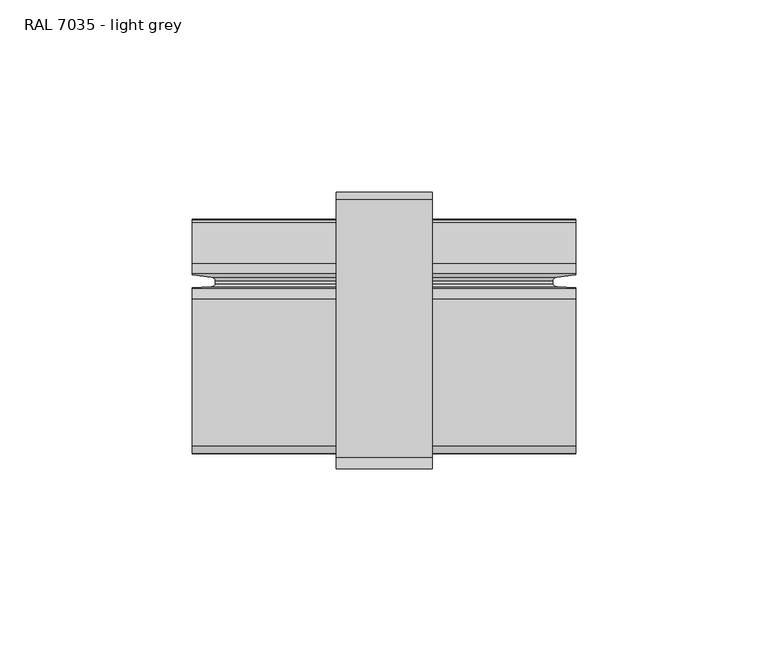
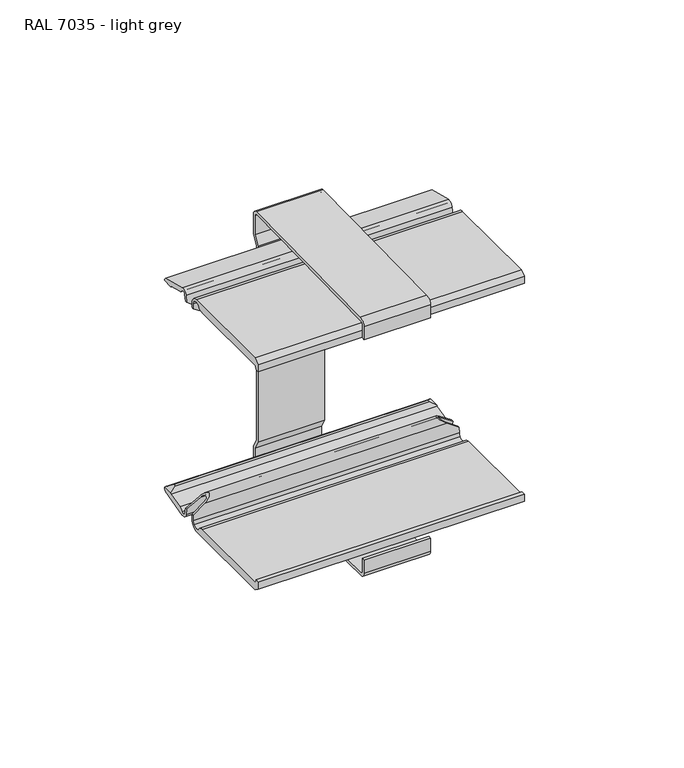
"""IFC4 building model written with IfcOpenShell, lengths in millimetres: cable carrier fitting geometry, Electrical_Installations_Hager_BRP-Cover-Joint-And-Coupling-Set-One-Compartment : RAL 7035 - light grey."""

from ifc_helpers import new_model, si_unit, point, frame, frame_2d, origin, place, context, project, spatial, polyline, circle_curve, ellipse_curve, trimmed, segment, composite_curve, outline, extrude, source, transform, mapped, element, save
from ifc_brep_helpers import plane_surface, cylinder_surface, revolved_surface, advanced_brep


def ral_7035_light_grey_244a7b3c(model_context):
    return source(origin(), model_context, "Body", "SolidModel", [
        advanced_brep(
        [(62.4539331, 9.9349646, -46.0), (62.4539331, 12.8937369, -43.1922299), (62.4539331, 13.0071302, -41.0285563), (62.4539331, 12.2060324, -41.0285563), (62.4539331, 12.0972278, -43.1046719), (62.4539331, 11.5722919, -44.3374822), (62.4539331, 8.6154068, -44.3374822), (62.4539331, 6.2408586, -43.0), (62.4539331, -28.4602638, -43.0), (62.4539331, -28.6935202, -41.8), (62.4539331, -30.1909579, -41.8), (62.4539331, -30.1909579, -44.5922147), (62.4539331, -28.1804322, -46.0), (62.4539331, 17.5959093, -43.5220563), (62.4539331, 17.156238, -41.0285563), (62.4539331, 16.3438967, -41.0285563), (62.4539331, 16.7875988, -43.5449161), (62.4539331, 19.2813243, -45.1597234), (62.4539331, 29.987087, -42.4606875), (62.4539331, 30.6071146, -41.6025774), (62.4539331, 30.713567, -41.0285563), (62.4539331, 26.7038341, -41.0285563), (62.4539331, 26.5295278, -41.269794), (62.4539331, 20.75928, -42.7245344), (62.4539331, 19.3924465, -43.8388343), (-37.4991238, 9.9349646, -46.0), (-37.4991238, -28.1804322, -46.0), (-37.4991238, -30.1909579, -44.5922147), (-37.4991238, -30.1909579, -41.8), (-37.4991238, -28.6935202, -41.8), (-37.4991238, -28.4602638, -43.0), (-37.4991238, 6.2408586, -43.0), (-37.4991238, 8.6154068, -44.3374822), (-37.4991238, 11.5722919, -44.3374822), (-37.4991238, 12.0972278, -43.1046719), (-37.4991238, 12.2043745, -41.0601898), (-37.4991238, 13.0054724, -41.0601898), (-37.4991238, 12.8937369, -43.1922299), (-37.4991238, 16.7875988, -43.5449161), (-37.4991238, 16.3494745, -41.0601898), (-37.4991238, 17.1618158, -41.0601898), (-37.4991238, 17.5959093, -43.5220563), (-37.4991238, 19.3924465, -43.8388343), (-37.4991238, 20.75928, -42.7245344), (-37.4991238, 26.5295278, -41.269794), (-37.4991238, 26.6809773, -41.0601898), (-37.4991238, 30.7211446, -41.0601898), (-37.4991238, 30.6071146, -41.6025774), (-37.4991238, 29.987087, -42.4606875), (-37.4991238, 19.2813243, -45.1597234), (57.9778928, 12.3702379, -37.8953281), (-32.9778928, 12.3702379, -37.8953281), (57.6312864, 16.5609841, -37.6527036), (-32.6312864, 16.5609841, -37.6527036), (60.3582956, 27.7637764, -39.5616101), (-35.3582956, 27.7637764, -39.5616101), (60.1356976, 28.7311779, -39.4057914), (-35.1356976, 28.7311779, -39.4057914), (61.9137661, 30.4537544, -40.6504394), (-36.9137661, 30.4537544, -40.6504394), (57.5108131, 15.7337729, -37.5683724), (-32.5108131, 15.7337729, -37.5683724), (56.4131383, 14.8180624, -36.8), (-31.4131383, 14.8180624, -36.8), (56.4131383, 14.0248885, -36.8), (-31.4131383, 14.0248885, -36.8), (57.5489353, 13.1870723, -37.5950579), (-32.5489353, 13.1870723, -37.5950579)],
        [
            (0, 1, circle_curve(frame((62.4539331, 9.9349646, -43.0371673), z_axis=(1.0, 0.0, 0.0), x_axis=(0.0, 1.0, 0.0)), 2.9628327)),
            (1, 2),
            (2, 3),
            (3, 4),
            (4, 5, circle_curve(frame((62.4539331, 10.1471153, -43.0024709), z_axis=(-1.0, 0.0, 0.0), x_axis=(0.0, 1.0, 0.0)), 1.9527887)),
            (5, 6, circle_curve(frame((62.4539331, 10.0938494, -43.0511502), z_axis=(-1.0, 0.0, 0.0), x_axis=(0.0, 1.0, 0.0)), 1.9597046)),
            (6, 7, circle_curve(frame((62.4539331, 6.1704137, -45.9016788), z_axis=(1.0, 0.0, 0.0), x_axis=(0.0, 1.0, 0.0)), 2.9025338)),
            (7, 8),
            (8, 9),
            (9, 10),
            (10, 11),
            (11, 12),
            (12, 0),
            (13, 14),
            (14, 15),
            (15, 16),
            (16, 17, circle_curve(frame((62.4539331, 18.7854041, -43.1926491), z_axis=(1.0, 0.0, 0.0), x_axis=(0.0, 1.0, 0.0)), 2.0286246)),
            (17, 18),
            (18, 19),
            (19, 20, circle_curve(frame((62.4539331, 30.0543655, -41.2031885), z_axis=(1.0, 0.0, 0.0), x_axis=(0.0, 1.0, 0.0)), 0.6819406)),
            (20, 21),
            (21, 22),
            (22, 23),
            (23, 24, circle_curve(frame((62.4539331, 21.9440803, -45.5732952), z_axis=(1.0, 0.0, 0.0), x_axis=(0.0, 1.0, 0.0)), 3.0853184)),
            (24, 13, circle_curve(frame((62.4539331, 18.5653797, -43.2766396), z_axis=(-1.0, 0.0, 0.0), x_axis=(0.0, 1.0, 0.0)), 1.0000511)),
            (25, 26),
            (26, 27),
            (27, 28),
            (28, 29),
            (29, 30),
            (30, 31),
            (31, 32, circle_curve(frame((-37.4991238, 6.1704137, -45.9016788), z_axis=(-1.0, 0.0, 0.0), x_axis=(0.0, 1.0, 0.0)), 2.9025338)),
            (32, 33, circle_curve(frame((-37.4991238, 10.0938494, -43.0511502), z_axis=(1.0, 0.0, 0.0), x_axis=(0.0, 1.0, 0.0)), 1.9597046)),
            (33, 34, circle_curve(frame((-37.4991238, 10.1471153, -43.0024709), z_axis=(1.0, 0.0, 0.0), x_axis=(0.0, 1.0, 0.0)), 1.9527887)),
            (34, 35),
            (35, 36),
            (36, 37),
            (37, 25, circle_curve(frame((-37.4991238, 9.9349646, -43.0371673), z_axis=(-1.0, 0.0, 0.0), x_axis=(0.0, 1.0, 0.0)), 2.9628327)),
            (38, 39),
            (39, 40),
            (40, 41),
            (41, 42, circle_curve(frame((-37.4991238, 18.5653797, -43.2766396), z_axis=(1.0, 0.0, 0.0), x_axis=(0.0, 1.0, 0.0)), 1.0000511)),
            (42, 43, circle_curve(frame((-37.4991238, 21.9440803, -45.5732952), z_axis=(-1.0, 0.0, 0.0), x_axis=(0.0, 1.0, 0.0)), 3.0853184)),
            (43, 44),
            (44, 45),
            (45, 46),
            (46, 47, circle_curve(frame((-37.4991238, 30.0543655, -41.2031885), z_axis=(-1.0, 0.0, 0.0), x_axis=(0.0, 1.0, 0.0)), 0.6819406)),
            (47, 48),
            (48, 49),
            (49, 38, circle_curve(frame((-37.4991238, 18.7854041, -43.1926491), z_axis=(-1.0, 0.0, 0.0), x_axis=(0.0, 1.0, 0.0)), 2.0286246)),
            (12, 26),
            (25, 0),
            (11, 27),
            (10, 28),
            (9, 29),
            (8, 30),
            (7, 31),
            (6, 32),
            (5, 33),
            (4, 34),
            (3, 50),
            (50, 51),
            (51, 35),
            (50, 52, ellipse_curve(frame((58.1555194, 14.479833, -38.0196667), z_axis=(-0.5734623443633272, 0.0, -0.8192319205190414), x_axis=(0.8192319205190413, 0.0, -0.5734623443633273)), 3.6850827, 2.1132562)),
            (52, 53),
            (53, 51, ellipse_curve(frame((-33.1555194, 14.479833, -38.0196667), z_axis=(0.5734623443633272, 0.0, -0.8192319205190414), x_axis=(0.8192319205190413, 0.0, 0.5734623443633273)), 3.6850827, 2.1132562)),
            (40, 53),
            (52, 14),
            (13, 41),
            (24, 42),
            (23, 43),
            (22, 44),
            (21, 54),
            (54, 55),
            (55, 45),
            (54, 56, ellipse_curve(frame((60.9379976, 28.3253864, -39.9674015), z_axis=(-0.5734623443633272, 0.0, -0.8192319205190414), x_axis=(0.8192319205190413, 0.0, -0.5734623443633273)), 1.208227, 0.6928727)),
            (56, 57),
            (57, 55, ellipse_curve(frame((-35.9379976, 28.3253864, -39.9674015), z_axis=(0.5734623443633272, 0.0, -0.8192319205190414), x_axis=(0.8192319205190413, 0.0, 0.5734623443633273)), 1.208227, 0.6928727)),
            (56, 58),
            (58, 59),
            (59, 57),
            (46, 59, ellipse_curve(frame((-37.7034076, 30.0543655, -41.2031885), z_axis=(0.5734623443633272, 0.0, -0.8192319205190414), x_axis=(0.8192319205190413, 0.0, 0.5734623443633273)), 1.1891637, 0.6819406)),
            (58, 20, ellipse_curve(frame((62.7034076, 30.0543655, -41.2031885), z_axis=(-0.5734623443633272, 0.0, -0.8192319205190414), x_axis=(0.8192319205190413, 0.0, -0.5734623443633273)), 1.1891637, 0.6819406)),
            (19, 47),
            (18, 48),
            (17, 49),
            (16, 38),
            (15, 60),
            (60, 61),
            (61, 39),
            (60, 62, ellipse_curve(frame((57.7414767, 14.8180624, -37.7298368), z_axis=(0.5734623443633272, 0.0, 0.8192319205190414), x_axis=(-0.8192319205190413, 0.0, 0.5734623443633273)), 1.6214436, 0.9298368)),
            (62, 63),
            (63, 61, ellipse_curve(frame((-32.7414767, 14.8180624, -37.7298368), z_axis=(-0.5734623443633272, 0.0, 0.8192319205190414), x_axis=(-0.8192319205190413, 0.0, -0.5734623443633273)), 1.6214436, 0.9298368)),
            (62, 64),
            (64, 65),
            (65, 63),
            (64, 66, ellipse_curve(frame((57.6116611, 14.0248885, -37.638966), z_axis=(0.5734623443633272, 0.0, 0.8192319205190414), x_axis=(-0.8192319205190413, 0.0, 0.5734623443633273)), 1.4629835, 0.838966)),
            (66, 67),
            (67, 65, ellipse_curve(frame((-32.6116611, 14.0248885, -37.638966), z_axis=(-0.5734623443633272, 0.0, 0.8192319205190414), x_axis=(-0.8192319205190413, 0.0, -0.5734623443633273)), 1.4629835, 0.838966)),
            (36, 67),
            (66, 2),
            (1, 37),
        ],
        [
            plane_surface(frame((62.4539331, -28.1804322, -46.0), z_axis=(1.0, 0.0, 0.0), x_axis=(0.0, -1.0, 0.0))),
            plane_surface(frame((-37.4991238, -28.1804322, -46.0), z_axis=(-1.0, 0.0, 0.0), x_axis=(0.0, 1.0, 0.0))),
            plane_surface(frame((62.4539331, 9.9349646, -46.0), z_axis=(0.0, 0.0, -1.0), x_axis=(-1.0, 0.0, 0.0))),
            plane_surface(frame((62.4539331, -28.1804322, -46.0), z_axis=(0.0, -0.5735764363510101, -0.8191520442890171), x_axis=(-1.0, 0.0, 0.0))),
            plane_surface(frame((62.4539331, -30.1909579, -44.5922147), z_axis=(0.0, -1.0, 0.0), x_axis=(-1.0, 0.0, 0.0))),
            plane_surface(frame((62.4539331, -30.1909579, -41.8), z_axis=(0.0, 0.0, 1.0), x_axis=(-1.0, 0.0, 0.0))),
            plane_surface(frame((62.4539331, -28.6935202, -41.8), z_axis=(0.0, 0.9816271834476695, 0.19080899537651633), x_axis=(-1.0, 0.0, 0.0))),
            plane_surface(frame((62.4539331, -28.4602638, -43.0), z_axis=(0.0, 0.0, 1.0), x_axis=(-1.0, 0.0, 0.0))),
            cylinder_surface(frame((-37.4991238, 6.1704137, -45.9016788), z_axis=(1.0, 0.0, 0.0), x_axis=(0.0, 1.0, 0.0)), 2.9025338),
            revolved_surface(polyline([(-37.4991238, 12.053554, -43.0511502), (62.45393310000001, 12.053554, -43.0511502)]), (-37.4991238, 10.0938494, -43.0511502), (-1.0, 0.0, 0.0)),
            revolved_surface(polyline([(-37.4991238, 12.099903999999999, -43.0024709), (62.45393310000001, 12.099903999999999, -43.0024709)]), (-37.4991238, 10.1471153, -43.0024709), (-1.0, 0.0, 0.0)),
            plane_surface(frame((62.4539331, 12.0972278, -43.1046719), z_axis=(0.0, -0.9986295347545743, 0.05233595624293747), x_axis=(-1.0, 0.0, 0.0))),
            cylinder_surface(frame((-37.4991238, 14.479833, -38.0196667), z_axis=(1.0, 0.0, 0.0), x_axis=(0.0, 1.0, 0.0)), 2.1132562),
            plane_surface(frame((62.4539331, 16.5609841, -37.6527036), z_axis=(0.0, 0.9848077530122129, 0.17364817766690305), x_axis=(-1.0, 0.0, 0.0))),
            revolved_surface(polyline([(-37.4991238, 19.5654308, -43.2766396), (62.45393310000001, 19.5654308, -43.2766396)]), (-37.4991238, 18.5653797, -43.2766396), (-1.0, 0.0, 0.0)),
            cylinder_surface(frame((-37.4991238, 21.9440803, -45.5732952), z_axis=(1.0, 0.0, 0.0), x_axis=(0.0, 1.0, 0.0)), 3.0853184),
            plane_surface(frame((62.4539331, 20.75928, -42.7245344), z_axis=(0.0, -0.2444612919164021, 0.9696590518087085), x_axis=(-1.0, 0.0, 0.0))),
            plane_surface(frame((62.4539331, 26.5295278, -41.269794), z_axis=(0.0, -0.8105530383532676, 0.585665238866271), x_axis=(-1.0, 0.0, 0.0))),
            cylinder_surface(frame((-37.4991238, 28.3253864, -39.9674015), z_axis=(1.0, 0.0, 0.0), x_axis=(0.0, 1.0, 0.0)), 0.6928727),
            plane_surface(frame((62.4539331, 28.7311779, -39.4057914), z_axis=(0.0, 0.5856652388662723, 0.8105530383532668), x_axis=(-1.0, 0.0, 0.0))),
            cylinder_surface(frame((-37.4991238, 30.0543655, -41.2031885), z_axis=(1.0, 0.0, 0.0), x_axis=(0.0, 1.0, 0.0)), 0.6819406),
            plane_surface(frame((62.4539331, 30.6071146, -41.6025774), z_axis=(0.0, 0.8105530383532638, -0.5856652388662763), x_axis=(-1.0, 0.0, 0.0))),
            plane_surface(frame((62.4539331, 29.987087, -42.4606875), z_axis=(0.0, 0.2444612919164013, -0.9696590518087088), x_axis=(-1.0, 0.0, 0.0))),
            cylinder_surface(frame((-37.4991238, 18.7854041, -43.1926491), z_axis=(1.0, 0.0, 0.0), x_axis=(0.0, 1.0, 0.0)), 2.0286246),
            plane_surface(frame((62.4539331, 16.7875988, -43.5449161), z_axis=(0.0, -0.9848077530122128, -0.1736481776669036), x_axis=(-1.0, 0.0, 0.0))),
            revolved_surface(polyline([(-34.06981505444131, 15.7478992, -37.7298368), (59.069815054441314, 15.7478992, -37.7298368)]), (-37.4991238, 14.8180624, -37.7298368), (-1.0, 0.0, 0.0)),
            plane_surface(frame((62.4539331, 14.8180624, -36.8), z_axis=(0.0, 0.0, -1.0), x_axis=(-1.0, 0.0, 0.0))),
            revolved_surface(polyline([(-33.810183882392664, 14.863854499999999, -37.638966), (58.81018388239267, 14.863854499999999, -37.638966)]), (-37.4991238, 14.0248885, -37.638966), (-1.0, 0.0, 0.0)),
            plane_surface(frame((62.4539331, 13.1870723, -37.5950579), z_axis=(0.0, 0.9986295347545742, -0.05233595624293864), x_axis=(-1.0, 0.0, 0.0))),
            cylinder_surface(frame((-37.4991238, 9.9349646, -43.0371673), z_axis=(1.0, 0.0, 0.0), x_axis=(0.0, 1.0, 0.0)), 2.9628327),
            plane_surface(frame((-29.049591, -36.0, -35.1455169), z_axis=(-0.5734623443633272, 0.0, 0.8192319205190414), x_axis=(0.0, 1.0, 0.0))),
            plane_surface(frame((63.0724089, -36.0, -41.4614894), z_axis=(0.5734623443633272, 0.0, 0.8192319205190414), x_axis=(0.0, 1.0, 0.0))),
        ],
        [
            (0, [[1, 2, 3, 4, 5, 6, 7, 8, 9, 10, 11, 12, 13]]),
            (0, [[14, 15, 16, 17, 18, 19, 20, 21, 22, 23, 24, 25]]),
            (1, [[26, 27, 28, 29, 30, 31, 32, 33, 34, 35, 36, 37, 38]]),
            (1, [[39, 40, 41, 42, 43, 44, 45, 46, 47, 48, 49, 50]]),
            (2, [[51, -26, 52, -13]]),
            (3, [[53, -27, -51, -12]]),
            (4, [[54, -28, -53, -11]]),
            (5, [[55, -29, -54, -10]]),
            (6, [[56, -30, -55, -9]]),
            (7, [[57, -31, -56, -8]]),
            (8, [[58, -32, -57, -7]]),
            (9, [[59, -33, -58, -6]]),
            (10, [[60, -34, -59, -5]]),
            (11, [[-4, 61, 62, 63, -35, -60]]),
            (12, [[-62, 64, 65, 66]]),
            (13, [[-41, 67, -65, 68, -14, 69]]),
            (14, [[70, -42, -69, -25]]),
            (15, [[71, -43, -70, -24]]),
            (16, [[72, -44, -71, -23]]),
            (17, [[-22, 73, 74, 75, -45, -72]]),
            (18, [[-74, 76, 77, 78]]),
            (19, [[-77, 79, 80, 81]]),
            (20, [[-47, 82, -80, 83, -20, 84]]),
            (21, [[85, -48, -84, -19]]),
            (22, [[86, -49, -85, -18]]),
            (23, [[87, -50, -86, -17]]),
            (24, [[-16, 88, 89, 90, -39, -87]]),
            (25, [[-89, 91, 92, 93]]),
            (26, [[-92, 94, 95, 96]]),
            (27, [[-95, 97, 98, 99]]),
            (28, [[-37, 100, -98, 101, -2, 102]]),
            (29, [[-52, -38, -102, -1]]),
            (30, [[-63, -66, -67, -40, -90, -93, -96, -99, -100, -36]]),
            (30, [[-75, -78, -81, -82, -46]]),
            (31, [[-83, -79, -76, -73, -21]]),
            (31, [[-101, -97, -94, -91, -88, -15, -68, -64, -61, -3]]),
        ],
    ),
        advanced_brep(
        [(62.4539331, 9.9349646, 46.0), (62.4539331, -28.1804322, 46.0), (62.4539331, -30.1909579, 44.5922147), (62.4539331, -30.1909579, 41.8), (62.4539331, -28.6935202, 41.8), (62.4539331, -28.4602638, 43.0), (62.4539331, 6.2408586, 43.0), (62.4539331, 8.6154068, 44.3374822), (62.4539331, 11.5722919, 44.3374822), (62.4539331, 12.0972278, 43.1046719), (62.4539331, 12.2060324, 41.0285563), (62.4539331, 13.0071302, 41.0285563), (62.4539331, 12.8937369, 43.1922299), (62.4539331, 17.5959093, 43.5220563), (62.4539331, 19.3924465, 43.8388343), (62.4539331, 20.75928, 42.7245344), (62.4539331, 26.5295278, 41.269794), (62.4539331, 26.7038341, 41.0285563), (62.4539331, 30.713567, 41.0285563), (62.4539331, 30.6071146, 41.6025774), (62.4539331, 29.987087, 42.4606875), (62.4539331, 19.2813243, 45.1597234), (62.4539331, 16.7875988, 43.5449161), (62.4539331, 16.3438967, 41.0285563), (62.4539331, 17.156238, 41.0285563), (-37.4991238, 9.9349646, 46.0), (-37.4991238, 12.8937369, 43.1922299), (-37.4991238, 13.0054724, 41.0601898), (-37.4991238, 12.2043745, 41.0601898), (-37.4991238, 12.0972278, 43.1046719), (-37.4991238, 11.5722919, 44.3374822), (-37.4991238, 8.6154068, 44.3374822), (-37.4991238, 6.2408586, 43.0), (-37.4991238, -28.4602638, 43.0), (-37.4991238, -28.6935202, 41.8), (-37.4991238, -30.1909579, 41.8), (-37.4991238, -30.1909579, 44.5922147), (-37.4991238, -28.1804322, 46.0), (-37.4991238, 16.7875988, 43.5449161), (-37.4991238, 19.2813243, 45.1597234), (-37.4991238, 29.987087, 42.4606875), (-37.4991238, 30.6071146, 41.6025774), (-37.4991238, 30.7211446, 41.0601898), (-37.4991238, 26.6809773, 41.0601898), (-37.4991238, 26.5295278, 41.269794), (-37.4991238, 20.75928, 42.7245344), (-37.4991238, 19.3924465, 43.8388343), (-37.4991238, 17.5959093, 43.5220563), (-37.4991238, 17.1618158, 41.0601898), (-37.4991238, 16.3494745, 41.0601898), (-32.9778928, 12.3702379, 37.8953281), (57.9778928, 12.3702379, 37.8953281), (-32.6312864, 16.5609841, 37.6527036), (57.6312864, 16.5609841, 37.6527036), (-35.3582956, 27.7637764, 39.5616101), (60.3582956, 27.7637764, 39.5616101), (-35.1356976, 28.7311779, 39.4057914), (60.1356976, 28.7311779, 39.4057914), (-36.9137661, 30.4537544, 40.6504394), (61.9137661, 30.4537544, 40.6504394), (-32.5108131, 15.7337729, 37.5683724), (57.5108131, 15.7337729, 37.5683724), (-31.4131383, 14.8180624, 36.8), (56.4131383, 14.8180624, 36.8), (-31.4131383, 14.0248885, 36.8), (56.4131383, 14.0248885, 36.8), (-32.5489353, 13.1870723, 37.5950579), (57.5489353, 13.1870723, 37.5950579)],
        [
            (0, 1),
            (1, 2),
            (2, 3),
            (3, 4),
            (4, 5),
            (5, 6),
            (6, 7, circle_curve(frame((62.4539331, 6.1704137, 45.9016788), z_axis=(1.0, 0.0, 0.0), x_axis=(0.0, 1.0, 0.0)), 2.9025338)),
            (7, 8, circle_curve(frame((62.4539331, 10.0938494, 43.0511502), z_axis=(-1.0, 0.0, 0.0), x_axis=(0.0, 1.0, 0.0)), 1.9597046)),
            (8, 9, circle_curve(frame((62.4539331, 10.1471153, 43.0024709), z_axis=(-1.0, 0.0, 0.0), x_axis=(0.0, 1.0, 0.0)), 1.9527887)),
            (9, 10),
            (10, 11),
            (11, 12),
            (12, 0, circle_curve(frame((62.4539331, 9.9349646, 43.0371673), z_axis=(1.0, 0.0, 0.0), x_axis=(0.0, 1.0, 0.0)), 2.9628327)),
            (13, 14, circle_curve(frame((62.4539331, 18.5653797, 43.2766396), z_axis=(-1.0, 0.0, 0.0), x_axis=(0.0, 1.0, 0.0)), 1.0000511)),
            (14, 15, circle_curve(frame((62.4539331, 21.9440803, 45.5732952), z_axis=(1.0, 0.0, 0.0), x_axis=(0.0, 1.0, 0.0)), 3.0853184)),
            (15, 16),
            (16, 17),
            (17, 18),
            (18, 19, circle_curve(frame((62.4539331, 30.0543655, 41.2031885), z_axis=(1.0, 0.0, 0.0), x_axis=(0.0, 1.0, 0.0)), 0.6819406)),
            (19, 20),
            (20, 21),
            (21, 22, circle_curve(frame((62.4539331, 18.7854041, 43.1926491), z_axis=(1.0, 0.0, 0.0), x_axis=(0.0, 1.0, 0.0)), 2.0286246)),
            (22, 23),
            (23, 24),
            (24, 13),
            (25, 26, circle_curve(frame((-37.4991238, 9.9349646, 43.0371673), z_axis=(-1.0, 0.0, 0.0), x_axis=(0.0, 1.0, 0.0)), 2.9628327)),
            (26, 27),
            (27, 28),
            (28, 29),
            (29, 30, circle_curve(frame((-37.4991238, 10.1471153, 43.0024709), z_axis=(1.0, 0.0, 0.0), x_axis=(0.0, 1.0, 0.0)), 1.9527887)),
            (30, 31, circle_curve(frame((-37.4991238, 10.0938494, 43.0511502), z_axis=(1.0, 0.0, 0.0), x_axis=(0.0, 1.0, 0.0)), 1.9597046)),
            (31, 32, circle_curve(frame((-37.4991238, 6.1704137, 45.9016788), z_axis=(-1.0, 0.0, 0.0), x_axis=(0.0, 1.0, 0.0)), 2.9025338)),
            (32, 33),
            (33, 34),
            (34, 35),
            (35, 36),
            (36, 37),
            (37, 25),
            (38, 39, circle_curve(frame((-37.4991238, 18.7854041, 43.1926491), z_axis=(-1.0, 0.0, 0.0), x_axis=(0.0, 1.0, 0.0)), 2.0286246)),
            (39, 40),
            (40, 41),
            (41, 42, circle_curve(frame((-37.4991238, 30.0543655, 41.2031885), z_axis=(-1.0, 0.0, 0.0), x_axis=(0.0, 1.0, 0.0)), 0.6819406)),
            (42, 43),
            (43, 44),
            (44, 45),
            (45, 46, circle_curve(frame((-37.4991238, 21.9440803, 45.5732952), z_axis=(-1.0, 0.0, 0.0), x_axis=(0.0, 1.0, 0.0)), 3.0853184)),
            (46, 47, circle_curve(frame((-37.4991238, 18.5653797, 43.2766396), z_axis=(1.0, 0.0, 0.0), x_axis=(0.0, 1.0, 0.0)), 1.0000511)),
            (47, 48),
            (48, 49),
            (49, 38),
            (0, 25),
            (37, 1),
            (36, 2),
            (35, 3),
            (34, 4),
            (33, 5),
            (32, 6),
            (31, 7),
            (30, 8),
            (29, 9),
            (28, 50),
            (50, 51),
            (51, 10),
            (50, 52, ellipse_curve(frame((-33.1555194, 14.479833, 38.0196667), z_axis=(0.5734623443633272, 0.0, 0.8192319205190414), x_axis=(0.8192319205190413, 0.0, -0.5734623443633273)), 3.6850827, 2.1132562)),
            (52, 53),
            (53, 51, ellipse_curve(frame((58.1555194, 14.479833, 38.0196667), z_axis=(-0.5734623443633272, 0.0, 0.8192319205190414), x_axis=(0.8192319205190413, 0.0, 0.5734623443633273)), 3.6850827, 2.1132562)),
            (47, 13),
            (24, 53),
            (52, 48),
            (46, 14),
            (45, 15),
            (44, 16),
            (43, 54),
            (54, 55),
            (55, 17),
            (54, 56, ellipse_curve(frame((-35.9379976, 28.3253864, 39.9674015), z_axis=(0.5734623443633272, 0.0, 0.8192319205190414), x_axis=(0.8192319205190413, 0.0, -0.5734623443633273)), 1.208227, 0.6928727)),
            (56, 57),
            (57, 55, ellipse_curve(frame((60.9379976, 28.3253864, 39.9674015), z_axis=(-0.5734623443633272, 0.0, 0.8192319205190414), x_axis=(0.8192319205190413, 0.0, 0.5734623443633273)), 1.208227, 0.6928727)),
            (56, 58),
            (58, 59),
            (59, 57),
            (41, 19),
            (18, 59, ellipse_curve(frame((62.7034076, 30.0543655, 41.2031885), z_axis=(-0.5734623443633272, 0.0, 0.8192319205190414), x_axis=(0.8192319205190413, 0.0, 0.5734623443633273)), 1.1891637, 0.6819406)),
            (58, 42, ellipse_curve(frame((-37.7034076, 30.0543655, 41.2031885), z_axis=(0.5734623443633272, 0.0, 0.8192319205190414), x_axis=(0.8192319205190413, 0.0, -0.5734623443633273)), 1.1891637, 0.6819406)),
            (40, 20),
            (39, 21),
            (38, 22),
            (49, 60),
            (60, 61),
            (61, 23),
            (60, 62, ellipse_curve(frame((-32.7414767, 14.8180624, 37.7298368), z_axis=(-0.5734623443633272, 0.0, -0.8192319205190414), x_axis=(-0.8192319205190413, 0.0, 0.5734623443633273)), 1.6214436, 0.9298368)),
            (62, 63),
            (63, 61, ellipse_curve(frame((57.7414767, 14.8180624, 37.7298368), z_axis=(0.5734623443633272, 0.0, -0.8192319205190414), x_axis=(-0.8192319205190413, 0.0, -0.5734623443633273)), 1.6214436, 0.9298368)),
            (62, 64),
            (64, 65),
            (65, 63),
            (64, 66, ellipse_curve(frame((-32.6116611, 14.0248885, 37.638966), z_axis=(-0.5734623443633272, 0.0, -0.8192319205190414), x_axis=(-0.8192319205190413, 0.0, 0.5734623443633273)), 1.4629835, 0.838966)),
            (66, 67),
            (67, 65, ellipse_curve(frame((57.6116611, 14.0248885, 37.638966), z_axis=(0.5734623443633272, 0.0, -0.8192319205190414), x_axis=(-0.8192319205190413, 0.0, -0.5734623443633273)), 1.4629835, 0.838966)),
            (26, 12),
            (11, 67),
            (66, 27),
        ],
        [
            plane_surface(frame((62.4539331, -28.1804322, 46.0), z_axis=(1.0, 0.0, 0.0), x_axis=(0.0, -1.0, 0.0))),
            plane_surface(frame((-37.4991238, -28.1804322, 46.0), z_axis=(-1.0, 0.0, 0.0), x_axis=(0.0, 1.0, 0.0))),
            plane_surface(frame((62.4539331, 9.9349646, 46.0), z_axis=(0.0, 0.0, 1.0), x_axis=(-1.0, 0.0, 0.0))),
            plane_surface(frame((62.4539331, -28.1804322, 46.0), z_axis=(0.0, -0.5735764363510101, 0.8191520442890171), x_axis=(-1.0, 0.0, 0.0))),
            plane_surface(frame((62.4539331, -30.1909579, 44.5922147), z_axis=(0.0, -1.0, 0.0), x_axis=(-1.0, 0.0, 0.0))),
            plane_surface(frame((62.4539331, -30.1909579, 41.8), z_axis=(0.0, 0.0, -1.0), x_axis=(-1.0, 0.0, 0.0))),
            plane_surface(frame((62.4539331, -28.6935202, 41.8), z_axis=(0.0, 0.9816271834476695, -0.19080899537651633), x_axis=(-1.0, 0.0, 0.0))),
            plane_surface(frame((62.4539331, -28.4602638, 43.0), z_axis=(0.0, 0.0, -1.0), x_axis=(-1.0, 0.0, 0.0))),
            cylinder_surface(frame((-37.4991238, 6.1704137, 45.9016788), z_axis=(1.0, 0.0, 0.0), x_axis=(0.0, 1.0, 0.0)), 2.9025338),
            revolved_surface(polyline([(-37.4991238, 12.053554, 43.0511502), (62.45393310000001, 12.053554, 43.0511502)]), (-37.4991238, 10.0938494, 43.0511502), (-1.0, 0.0, 0.0)),
            revolved_surface(polyline([(-37.4991238, 12.099903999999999, 43.0024709), (62.45393310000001, 12.099903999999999, 43.0024709)]), (-37.4991238, 10.1471153, 43.0024709), (-1.0, 0.0, 0.0)),
            plane_surface(frame((62.4539331, 12.0972278, 43.1046719), z_axis=(0.0, -0.9986295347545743, -0.05233595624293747), x_axis=(-1.0, 0.0, 0.0))),
            cylinder_surface(frame((-37.4991238, 14.479833, 38.0196667), z_axis=(1.0, 0.0, 0.0), x_axis=(0.0, 1.0, 0.0)), 2.1132562),
            plane_surface(frame((62.4539331, 16.5609841, 37.6527036), z_axis=(0.0, 0.9848077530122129, -0.17364817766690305), x_axis=(-1.0, 0.0, 0.0))),
            revolved_surface(polyline([(-37.4991238, 19.5654308, 43.2766396), (62.45393310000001, 19.5654308, 43.2766396)]), (-37.4991238, 18.5653797, 43.2766396), (-1.0, 0.0, 0.0)),
            cylinder_surface(frame((-37.4991238, 21.9440803, 45.5732952), z_axis=(1.0, 0.0, 0.0), x_axis=(0.0, 1.0, 0.0)), 3.0853184),
            plane_surface(frame((62.4539331, 20.75928, 42.7245344), z_axis=(0.0, -0.2444612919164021, -0.9696590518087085), x_axis=(-1.0, 0.0, 0.0))),
            plane_surface(frame((62.4539331, 26.5295278, 41.269794), z_axis=(0.0, -0.8105530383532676, -0.585665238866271), x_axis=(-1.0, 0.0, 0.0))),
            cylinder_surface(frame((-37.4991238, 28.3253864, 39.9674015), z_axis=(1.0, 0.0, 0.0), x_axis=(0.0, 1.0, 0.0)), 0.6928727),
            plane_surface(frame((62.4539331, 28.7311779, 39.4057914), z_axis=(0.0, 0.5856652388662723, -0.8105530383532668), x_axis=(-1.0, 0.0, 0.0))),
            cylinder_surface(frame((-37.4991238, 30.0543655, 41.2031885), z_axis=(1.0, 0.0, 0.0), x_axis=(0.0, 1.0, 0.0)), 0.6819406),
            plane_surface(frame((62.4539331, 30.6071146, 41.6025774), z_axis=(0.0, 0.8105530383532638, 0.5856652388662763), x_axis=(-1.0, 0.0, 0.0))),
            plane_surface(frame((62.4539331, 29.987087, 42.4606875), z_axis=(0.0, 0.2444612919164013, 0.9696590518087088), x_axis=(-1.0, 0.0, 0.0))),
            cylinder_surface(frame((-37.4991238, 18.7854041, 43.1926491), z_axis=(1.0, 0.0, 0.0), x_axis=(0.0, 1.0, 0.0)), 2.0286246),
            plane_surface(frame((62.4539331, 16.7875988, 43.5449161), z_axis=(0.0, -0.9848077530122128, 0.1736481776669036), x_axis=(-1.0, 0.0, 0.0))),
            revolved_surface(polyline([(-34.06981505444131, 15.7478992, 37.7298368), (59.069815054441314, 15.7478992, 37.7298368)]), (-37.4991238, 14.8180624, 37.7298368), (-1.0, 0.0, 0.0)),
            plane_surface(frame((62.4539331, 14.8180624, 36.8), z_axis=(0.0, 0.0, 1.0), x_axis=(-1.0, 0.0, 0.0))),
            revolved_surface(polyline([(-33.810183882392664, 14.863854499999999, 37.638966), (58.81018388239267, 14.863854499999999, 37.638966)]), (-37.4991238, 14.0248885, 37.638966), (-1.0, 0.0, 0.0)),
            plane_surface(frame((62.4539331, 13.1870723, 37.5950579), z_axis=(0.0, 0.9986295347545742, 0.05233595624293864), x_axis=(-1.0, 0.0, 0.0))),
            cylinder_surface(frame((-37.4991238, 9.9349646, 43.0371673), z_axis=(1.0, 0.0, 0.0), x_axis=(0.0, 1.0, 0.0)), 2.9628327),
            plane_surface(frame((-29.049591, -36.0, 35.1455169), z_axis=(-0.5734623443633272, 0.0, -0.8192319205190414), x_axis=(0.0, 1.0, 0.0))),
            plane_surface(frame((63.0724089, -36.0, 41.4614894), z_axis=(0.5734623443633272, 0.0, -0.8192319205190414), x_axis=(0.0, 1.0, 0.0))),
        ],
        [
            (0, [[1, 2, 3, 4, 5, 6, 7, 8, 9, 10, 11, 12, 13]]),
            (0, [[14, 15, 16, 17, 18, 19, 20, 21, 22, 23, 24, 25]]),
            (1, [[26, 27, 28, 29, 30, 31, 32, 33, 34, 35, 36, 37, 38]]),
            (1, [[39, 40, 41, 42, 43, 44, 45, 46, 47, 48, 49, 50]]),
            (2, [[-1, 51, -38, 52]]),
            (3, [[-2, -52, -37, 53]]),
            (4, [[-3, -53, -36, 54]]),
            (5, [[-4, -54, -35, 55]]),
            (6, [[-5, -55, -34, 56]]),
            (7, [[-6, -56, -33, 57]]),
            (8, [[-7, -57, -32, 58]]),
            (9, [[-8, -58, -31, 59]]),
            (10, [[-9, -59, -30, 60]]),
            (11, [[-60, -29, 61, 62, 63, -10]]),
            (12, [[64, 65, 66, -62]]),
            (13, [[67, -25, 68, -65, 69, -48]]),
            (14, [[-14, -67, -47, 70]]),
            (15, [[-15, -70, -46, 71]]),
            (16, [[-16, -71, -45, 72]]),
            (17, [[-72, -44, 73, 74, 75, -17]]),
            (18, [[76, 77, 78, -74]]),
            (19, [[79, 80, 81, -77]]),
            (20, [[82, -19, 83, -80, 84, -42]]),
            (21, [[-20, -82, -41, 85]]),
            (22, [[-21, -85, -40, 86]]),
            (23, [[-22, -86, -39, 87]]),
            (24, [[-87, -50, 88, 89, 90, -23]]),
            (25, [[91, 92, 93, -89]]),
            (26, [[94, 95, 96, -92]]),
            (27, [[97, 98, 99, -95]]),
            (28, [[100, -12, 101, -98, 102, -27]]),
            (29, [[-13, -100, -26, -51]]),
            (30, [[-28, -102, -97, -94, -91, -88, -49, -69, -64, -61]]),
            (30, [[-43, -84, -79, -76, -73]]),
            (31, [[-11, -63, -66, -68, -24, -90, -93, -96, -99, -101]]),
            (31, [[-18, -75, -78, -81, -83]]),
        ],
    ),
        extrude(outline(composite_curve([segment(polyline([(-32.1083377, -49.9138034), (35.8565441, -51.1001348)]), True, "CONTINUOUS"), segment(trimmed(circle_curve(frame_2d((35.8740137, -50.0993009)), 1.0009863), [point((35.8565441, -51.1001348))], [point((36.875, -50.0993009))], True, "CARTESIAN"), True, "CONTINUOUS"), segment(polyline([(36.875, -50.0993009), (36.875, -42.3648633), (34.8722656, -38.8960256), (34.8722656, 38.8960256), (36.875, 42.3648633), (36.875, 49.9708268)]), True, "CONTINUOUS"), segment(trimmed(circle_curve(frame_2d((35.8484377, 49.9708268)), 1.0265623), [point((36.875, 49.9708268))], [point((35.8452591, 50.9973842))], True, "CARTESIAN"), True, "CONTINUOUS"), segment(polyline([(35.8452591, 50.9973842), (-32.1567027, 49.821136)]), True, "CONTINUOUS"), segment(trimmed(circle_curve(frame_2d((-32.1397104, 48.8387682)), 0.9825147), [point((-32.1567027, 49.821136))], [point((-33.1220754, 48.821621))], True, "CARTESIAN"), True, "CONTINUOUS"), segment(polyline([(-33.1220754, 48.821621), (-33.0345083, 43.8048999), (-34.1222656, 43.785913), (-34.1222656, 48.8271417)]), True, "CONTINUOUS"), segment(trimmed(circle_curve(frame_2d((-31.9938499, 48.8271417)), 2.1284157), [point((-34.1222656, 48.8271417))], [point((-31.2987662, 50.8388603))], False, "CARTESIAN"), True, "CONTINUOUS"), segment(polyline([(-31.2987662, 50.8388603), (35.8297331, 52.0)]), True, "CONTINUOUS"), segment(trimmed(circle_curve(frame_2d((35.8645095, 49.9898103)), 2.0104905), [point((35.8297331, 52.0))], [point((37.875, 49.9898103))], False, "CARTESIAN"), True, "CONTINUOUS"), segment(polyline([(37.875, 49.9898103), (37.875, 42.0969141), (35.875, 38.6328125), (35.875, -38.6328125), (37.8777344, -42.1016502), (37.8777344, -50.1886703)]), True, "CONTINUOUS"), segment(trimmed(circle_curve(frame_2d((35.9167634, -50.1886703)), 1.960971), [point((37.8777344, -50.1886703))], [point((36.3048885, -52.1108478))], False, "CARTESIAN"), True, "CONTINUOUS"), segment(polyline([(36.3048885, -52.1108478), (-32.8239457, -50.9041995)]), True, "CONTINUOUS"), segment(trimmed(circle_curve(frame_2d((-31.9938509, -48.9443292)), 2.1284147), [point((-32.8239457, -50.9041995))], [point((-34.1222656, -48.9443292))], False, "CARTESIAN"), True, "CONTINUOUS"), segment(polyline([(-34.1222656, -48.9443292), (-34.1222656, -43.7605487), (-33.0324634, -43.7795712), (-33.1212285, -48.8649242)]), True, "CONTINUOUS"), segment(trimmed(circle_curve(frame_2d((-32.0903436, -48.8829184)), 1.031042), [point((-33.1212285, -48.8649242))], [point((-32.1083377, -49.9138034))], True, "CARTESIAN"), True, "CONTINUOUS")], self_intersect=False)), frame((0.0, 0.0, 0.0), z_axis=(1.0, 0.0, 0.0), x_axis=(0.0, 1.0, 0.0)), (0.0, 0.0, 1.0), 25.0),
    ])


if __name__ == "__main__":
    model = new_model("IFC4")
    model_context = context("Model", 3, world=origin())
    ifc_project = project(units=[si_unit("LENGTHUNIT", "METRE", prefix="MILLI")], contexts=[model_context])
    site = spatial("IfcSite", under=ifc_project)
    building = spatial("IfcBuilding", under=site)
    placement = place(None, origin())
    ral_7035_light_grey_shape = ral_7035_light_grey_244a7b3c(model_context)
    element("IfcCableCarrierFitting", 1, ObjectType="Electrical_Installations_Hager_BRP-Cover-Joint-And-Coupling-Set-One-Compartment : RAL 7035 - light grey", at=placement, inside=building, context=model_context, shape_type="MappedRepresentation", body=[
        mapped(ral_7035_light_grey_shape, transform((0.0, 0.0, 0.0), x_axis=(1.0, 0.0, 0.0), y_axis=(0.0, 1.0, 0.0), z_axis=(0.0, 0.0, 1.0))),
    ])
    save(model, "model.ifc")
